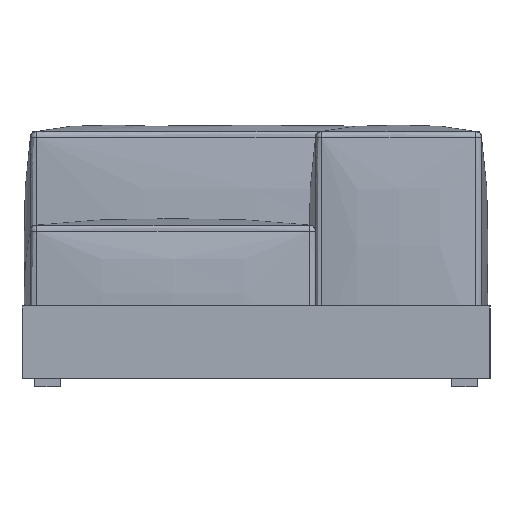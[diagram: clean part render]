
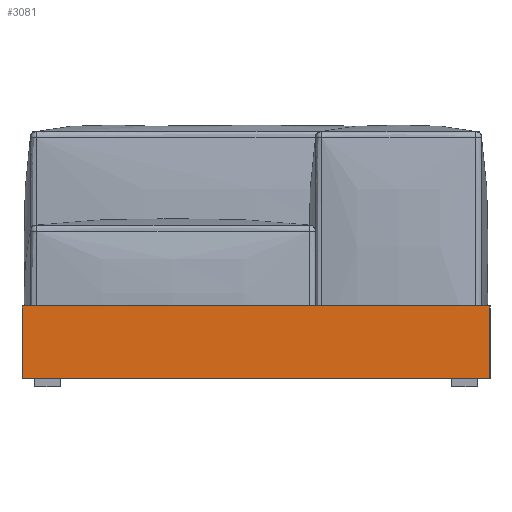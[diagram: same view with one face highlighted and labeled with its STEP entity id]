
A CAD part, left-side view. The second image highlights one B-rep face of the part: STEP entity #3081.
In plain terms, the highlighted planar face has unit normal (-1, 0, 0).
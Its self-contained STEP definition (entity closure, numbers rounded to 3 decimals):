
#106=PLANE('',#3433);
#222=LINE('',#14241,#422);
#223=LINE('',#14243,#423);
#224=LINE('',#14245,#424);
#225=LINE('',#14246,#425);
#422=VECTOR('',#3938,10.);
#423=VECTOR('',#3939,10.);
#424=VECTOR('',#3940,10.);
#425=VECTOR('',#3941,10.);
#925=FACE_OUTER_BOUND('',#1151,.T.);
#1151=EDGE_LOOP('',(#2563,#2564,#2565,#2566));
#1491=VERTEX_POINT('',#14239);
#1492=VERTEX_POINT('',#14240);
#1493=VERTEX_POINT('',#14242);
#1494=VERTEX_POINT('',#14244);
#1867=EDGE_CURVE('',#1491,#1492,#222,.T.);
#1868=EDGE_CURVE('',#1491,#1493,#223,.T.);
#1869=EDGE_CURVE('',#1494,#1493,#224,.T.);
#1870=EDGE_CURVE('',#1492,#1494,#225,.T.);
#2563=ORIENTED_EDGE('',*,*,#1867,.F.);
#2564=ORIENTED_EDGE('',*,*,#1868,.T.);
#2565=ORIENTED_EDGE('',*,*,#1869,.F.);
#2566=ORIENTED_EDGE('',*,*,#1870,.F.);
#3081=ADVANCED_FACE('',(#925),#106,.T.);
#3433=AXIS2_PLACEMENT_3D('',#14238,#3936,#3937);
#3936=DIRECTION('center_axis',(-1.,0.,0.));
#3937=DIRECTION('ref_axis',(0.,-1.,0.));
#3938=DIRECTION('',(0.,1.,0.));
#3939=DIRECTION('',(0.,0.,1.));
#3940=DIRECTION('',(0.,-1.,0.));
#3941=DIRECTION('',(0.,0.,1.));
#14238=CARTESIAN_POINT('Origin',(-1200.,550.,0.));
#14239=CARTESIAN_POINT('',(-1200.,-550.,0.));
#14240=CARTESIAN_POINT('',(-1200.,550.,0.));
#14241=CARTESIAN_POINT('',(-1200.,-550.,0.));
#14242=CARTESIAN_POINT('',(-1200.,-550.,170.));
#14243=CARTESIAN_POINT('',(-1200.,-550.,0.));
#14244=CARTESIAN_POINT('',(-1200.,550.,170.));
#14245=CARTESIAN_POINT('',(-1200.,-550.,170.));
#14246=CARTESIAN_POINT('',(-1200.,550.,0.));
